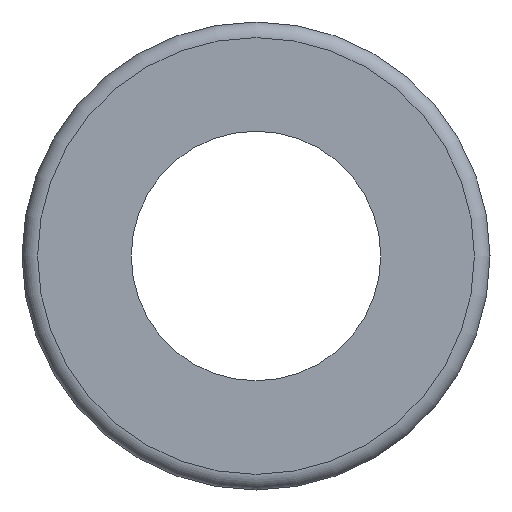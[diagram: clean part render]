
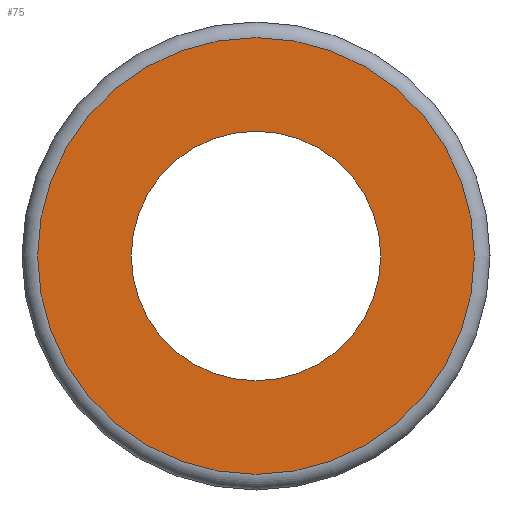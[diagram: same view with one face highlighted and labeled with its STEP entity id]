
A CAD part, left-side view. The second image highlights one B-rep face of the part: STEP entity #75.
In plain terms, the highlighted planar face has unit normal (-1, 0, 0).
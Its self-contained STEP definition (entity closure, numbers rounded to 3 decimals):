
#75=ADVANCED_FACE('',(#90,#91),#92,.T.);
#90=FACE_OUTER_BOUND('',#132,.T.);
#91=FACE_BOUND('',#133,.T.);
#92=PLANE('',#134);
#132=EDGE_LOOP('',(#174));
#133=EDGE_LOOP('',(#175));
#134=AXIS2_PLACEMENT_3D('',#176,#177,#178);
#174=ORIENTED_EDGE('',*,*,#244,.F.);
#175=ORIENTED_EDGE('',*,*,#245,.T.);
#176=CARTESIAN_POINT('',(31.489,5.5,0.0));
#177=DIRECTION('',(-1.0,0.0,0.0));
#178=DIRECTION('',(0.0,0.0,1.0));
#244=EDGE_CURVE('',#258,#258,#259,.T.);
#245=EDGE_CURVE('',#260,#260,#261,.T.);
#258=VERTEX_POINT('',#286);
#259=CIRCLE('',#287,7.0);
#260=VERTEX_POINT('',#288);
#261=CIRCLE('',#289,4.0);
#286=CARTESIAN_POINT('',(31.489,7.0,0.0));
#287=AXIS2_PLACEMENT_3D('',#314,#315,#316);
#288=CARTESIAN_POINT('',(31.489,4.0,0.0));
#289=AXIS2_PLACEMENT_3D('',#317,#318,#319);
#314=CARTESIAN_POINT('',(31.489,0.0,0.0));
#315=DIRECTION('',(1.0,0.0,0.0));
#316=DIRECTION('',(0.0,1.0,0.0));
#317=CARTESIAN_POINT('',(31.489,0.0,0.0));
#318=DIRECTION('',(1.0,0.0,0.0));
#319=DIRECTION('',(0.0,1.0,0.0));
